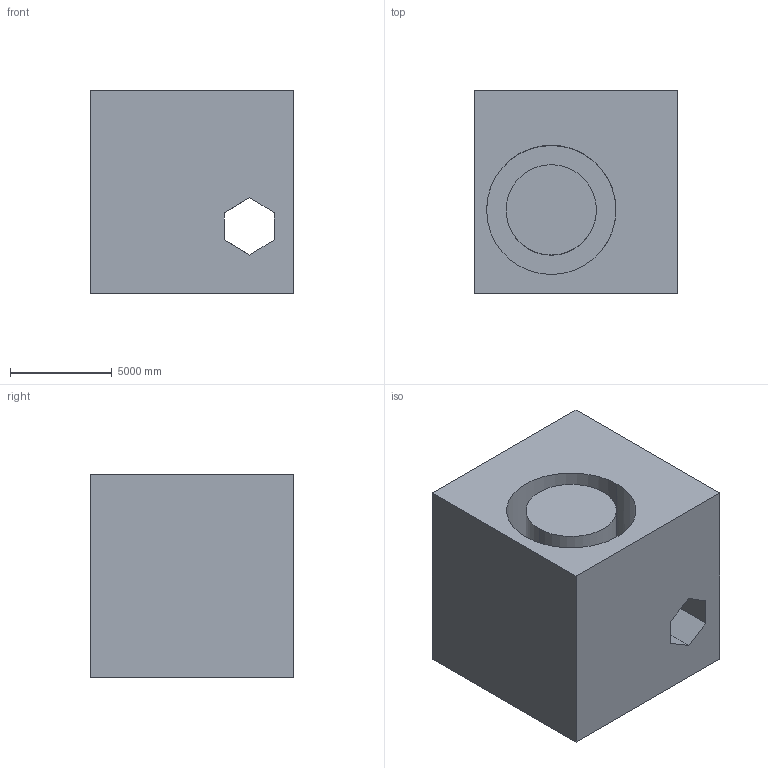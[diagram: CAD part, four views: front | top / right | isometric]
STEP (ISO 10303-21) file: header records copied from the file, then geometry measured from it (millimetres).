
FILE_DESCRIPTION (( 'STEP AP203' ), '1' );
FILE_NAME ('49.STEP', '2022-07-28T13:29:29', ( 'user' ), ( '' ), 'SwSTEP 2.0', 'SolidWorks 2021', '' );
FILE_SCHEMA (( 'CONFIG_CONTROL_DESIGN' ));
Length unit declared in the file: centimetre
Products named in the file (1): 49
Bounding box: 10000 x 10000 x 10000 mm (x, y, z)
Volume: 824702300012.9 mm3; surface area: 924529332.8 mm2
Topology: 1 solids, 1 shells, 19 faces, 51 edges, 34 vertices
Faces by surface type: plane 15, cylinder 4
Entity records: 678 total; most frequent: CARTESIAN_POINT 117, ORIENTED_EDGE 102, DIRECTION 95, EDGE_CURVE 51, VECTOR 39, LINE 39, VERTEX_POINT 34, AXIS2_PLACEMENT_3D 28
